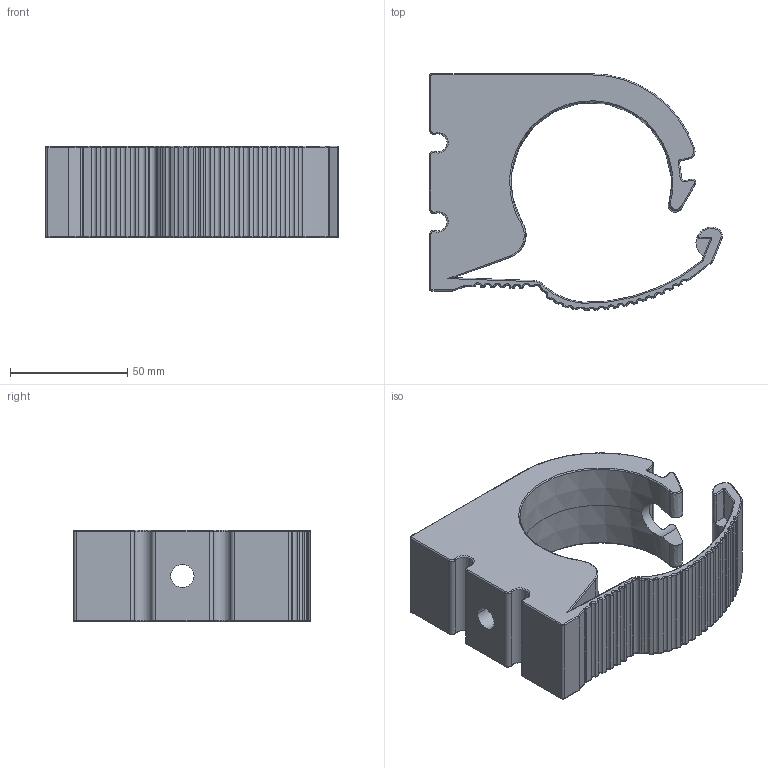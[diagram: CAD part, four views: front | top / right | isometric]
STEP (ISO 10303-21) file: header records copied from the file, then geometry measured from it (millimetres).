
FILE_DESCRIPTION((''),'2;1');
FILE_NAME('AU15602200','2017-05-16T',('Administrator'),(''),'PRO/ENGINEER BY PARAMETRIC TECHNOLOGY CORPORATION, 2009360','PRO/ENGINEER BY PARAMETRIC TECHNOLOGY CORPORATION, 2009360','');
FILE_SCHEMA(('AUTOMOTIVE_DESIGN_CC2 { 1 2 10303 214 -1 1 5 2 }'));
Length unit declared in the file: millimetre
Products named in the file (1): AU15602200
Bounding box: 124.88 x 100.87 x 39.12 mm (x, y, z)
Volume: 183290.3 mm3; surface area: 40440.5 mm2
Topology: 1 solids, 1 shells, 312 faces, 847 edges, 538 vertices
Faces by surface type: torus 134, cylinder 125, plane 41, bspline 10, cone 2
Entity records: 13440 total; most frequent: CARTESIAN_POINT 2971, DIRECTION 1728, ORIENTED_EDGE 1694, PRESENTATION_STYLE_ASSIGNMENT 848, STYLED_ITEM 848, CURVE_STYLE 847, EDGE_CURVE 847, AXIS2_PLACEMENT_3D 751
